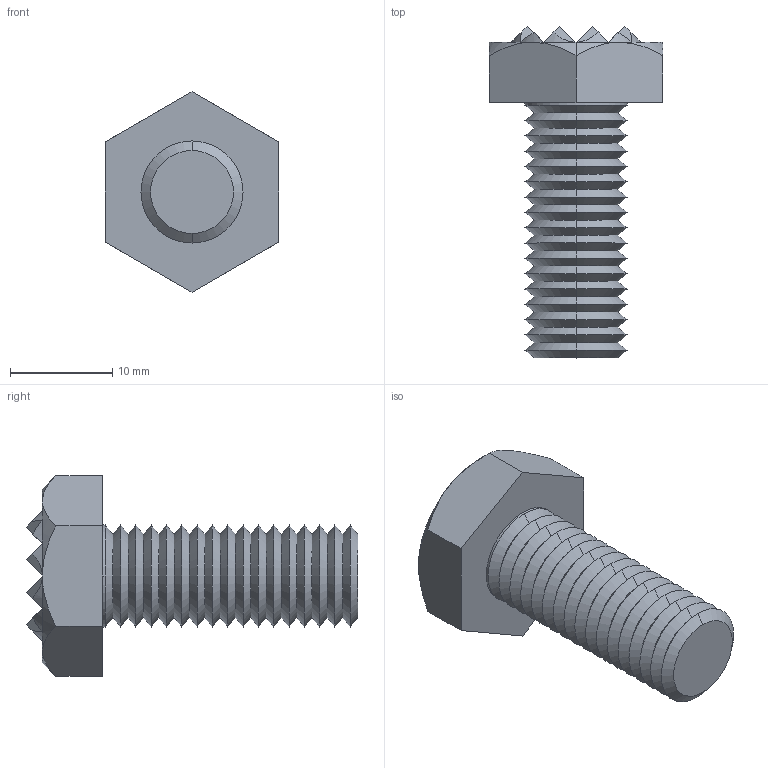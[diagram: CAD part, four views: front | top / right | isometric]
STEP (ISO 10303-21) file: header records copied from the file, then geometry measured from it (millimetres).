
FILE_DESCRIPTION (( 'STEP AP203' ), '1' );
FILE_NAME ('35400.W0007.step', '2017-07-03T07:21:08', ( 'User' ), ( '' ), 'SwSTEP 2.0', 'SolidWorks 2009', '' );
FILE_SCHEMA (( 'CONFIG_CONTROL_DESIGN' ));
Length unit declared in the file: millimetre
Products named in the file (1): 35400.W0007
Bounding box: 17 x 32.5 x 19.63 mm (x, y, z)
Volume: 3158.4 mm3; surface area: 1998.6 mm2
Topology: 1 solids, 1 shells, 152 faces, 284 edges, 136 vertices
Faces by surface type: cone 85, plane 65, cylinder 2
Entity records: 3714 total; most frequent: CARTESIAN_POINT 727, DIRECTION 645, ORIENTED_EDGE 568, EDGE_CURVE 284, AXIS2_PLACEMENT_3D 244, VECTOR 157, LINE 157, EDGE_LOOP 154
